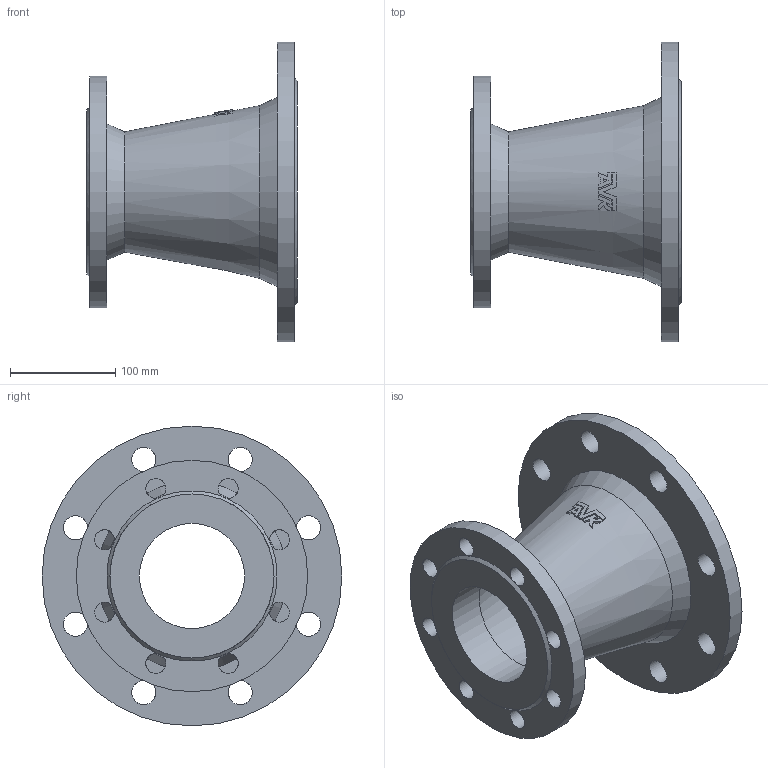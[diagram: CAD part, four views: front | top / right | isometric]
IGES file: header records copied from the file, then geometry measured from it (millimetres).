
Start section: SolidWorks IGES file using analytic representation for surfaces
Global section: file name: \\avksan2\techshare\PBM outline export from Enovia\O_712_2210_DN150_DN100_1X_REV01.igs; native system: SolidWorks 2022; preprocessor: SolidWorks 2022; author: pbm; date: 240814.135524; units: millimetre
Bounding box: 200 x 285 x 285 mm (x, y, z)
Surface area: 326201.1 mm2 (no closed solid volume)
Topology: 0 solids, 0 shells, 81 faces, 424 edges, 389 vertices
Faces by surface type: bspline 49, revolution 32
